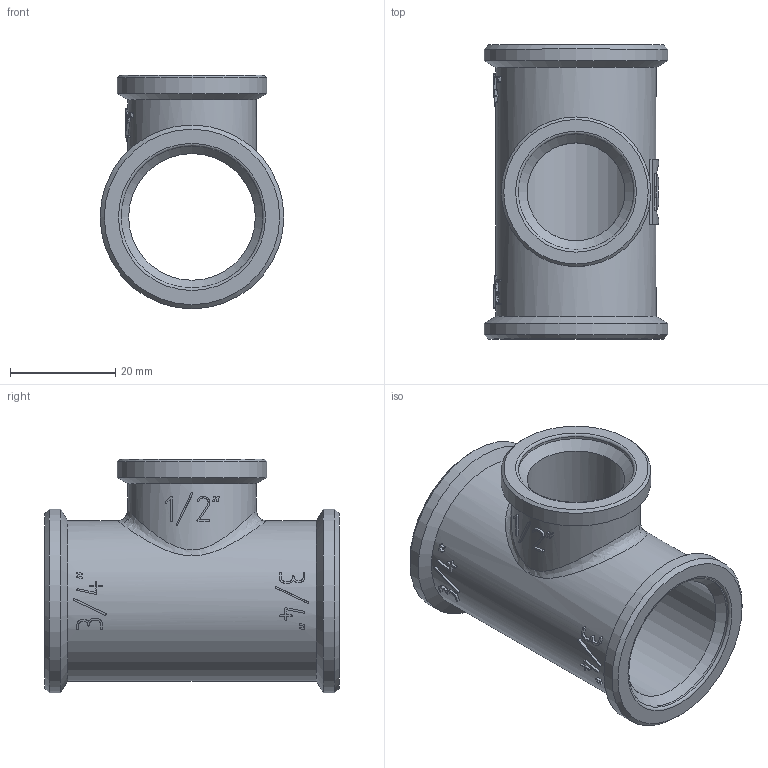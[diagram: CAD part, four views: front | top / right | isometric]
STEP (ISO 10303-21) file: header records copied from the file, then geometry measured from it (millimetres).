
FILE_DESCRIPTION(('STEP AP203'), '1');
FILE_NAME('ÂÐ.752243.001 -VTr.750.N.0504 - Ôèò. ðåçüá. òðîé', '2024-07-15T08:46:04', ('Boss'), (''), 'C3D Converter', 'C3D Toolkit', '');
FILE_SCHEMA(('CONFIG_CONTROL_DESIGN'));
Length unit declared in the file: millimetre
Products named in the file (1): ВР.752243.001
Bounding box: 35 x 56 x 44.5 mm (x, y, z)
Volume: 18932.3 mm3; surface area: 12584.1 mm2
Topology: 1 solids, 1 shells, 348 faces, 973 edges, 643 vertices
Faces by surface type: extrusion 196, plane 110, cylinder 29, cone 9, torus 3, bspline 1
Full cylindrical faces by diameter (mm): 18.632 x1, 22 x1, 24.118 x1, 24.5 x1, 27 x2, 28.5 x1, 30.5 x1, 35 x2
Entity records: 16056 total; most frequent: CARTESIAN_POINT 8252, ORIENTED_EDGE 1892, DIRECTION 1006, EDGE_CURVE 946, VERTEX_POINT 642, B_SPLINE_CURVE_WITH_KNOTS 593, VECTOR 548, EDGE_LOOP 394
